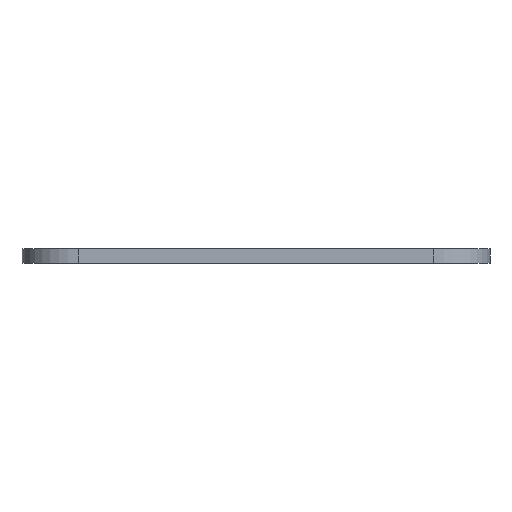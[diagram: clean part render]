
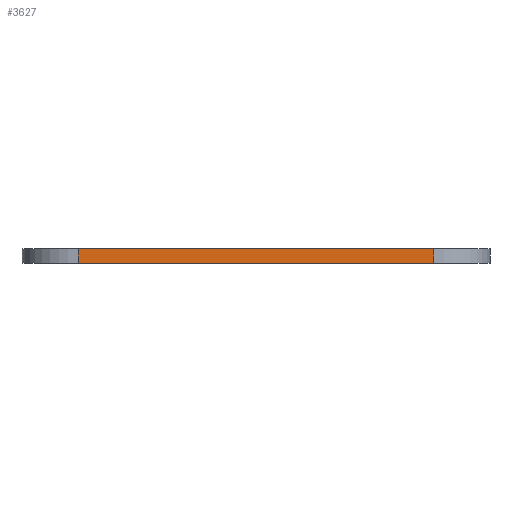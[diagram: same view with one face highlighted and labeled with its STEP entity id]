
A CAD part, front view. The second image highlights one B-rep face of the part: STEP entity #3627.
In plain terms, the highlighted planar face has unit normal (0, -1, 0).
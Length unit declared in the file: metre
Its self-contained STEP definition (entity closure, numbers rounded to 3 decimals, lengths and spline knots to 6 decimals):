
#44=LINE('',#6131,#92);
#46=LINE('',#6140,#94);
#47=LINE('',#6143,#95);
#48=LINE('',#6144,#96);
#92=VECTOR('',#5203,1.);
#94=VECTOR('',#5211,1.);
#95=VECTOR('',#5212,1.);
#96=VECTOR('',#5213,1.);
#116=PLANE('',#4152);
#502=ORIENTED_EDGE('',*,*,#1254,.T.);
#503=ORIENTED_EDGE('',*,*,#1255,.T.);
#504=ORIENTED_EDGE('',*,*,#1250,.F.);
#505=ORIENTED_EDGE('',*,*,#1256,.F.);
#1250=EDGE_CURVE('',#1618,#1619,#44,.T.);
#1254=EDGE_CURVE('',#1622,#1623,#46,.T.);
#1255=EDGE_CURVE('',#1623,#1619,#47,.T.);
#1256=EDGE_CURVE('',#1622,#1618,#48,.T.);
#1618=VERTEX_POINT('',#6132);
#1619=VERTEX_POINT('',#6133);
#1622=VERTEX_POINT('',#6141);
#1623=VERTEX_POINT('',#6142);
#2299=EDGE_LOOP('',(#502,#503,#504,#505));
#2957=FACE_BOUND('',#2299,.T.);
#3627=ADVANCED_FACE('',(#2957),#116,.T.);
#4152=AXIS2_PLACEMENT_3D('',#6139,#5209,#5210);
#5203=DIRECTION('',(0.,0.,1.));
#5209=DIRECTION('',(0.,-1.,0.));
#5210=DIRECTION('',(-1.,0.,0.));
#5211=DIRECTION('',(0.,0.,1.));
#5212=DIRECTION('',(-1.,0.,0.));
#5213=DIRECTION('',(-1.,0.,0.));
#6131=CARTESIAN_POINT('',(0.14,-0.13,0.));
#6132=CARTESIAN_POINT('',(0.14,-0.13,0.));
#6133=CARTESIAN_POINT('',(0.14,-0.13,0.00151));
#6139=CARTESIAN_POINT('',(0.178,-0.13,0.));
#6140=CARTESIAN_POINT('',(0.178,-0.13,0.));
#6141=CARTESIAN_POINT('',(0.178,-0.13,0.));
#6142=CARTESIAN_POINT('',(0.178,-0.13,0.00151));
#6143=CARTESIAN_POINT('',(0.178,-0.13,0.00151));
#6144=CARTESIAN_POINT('',(0.178,-0.13,0.));
